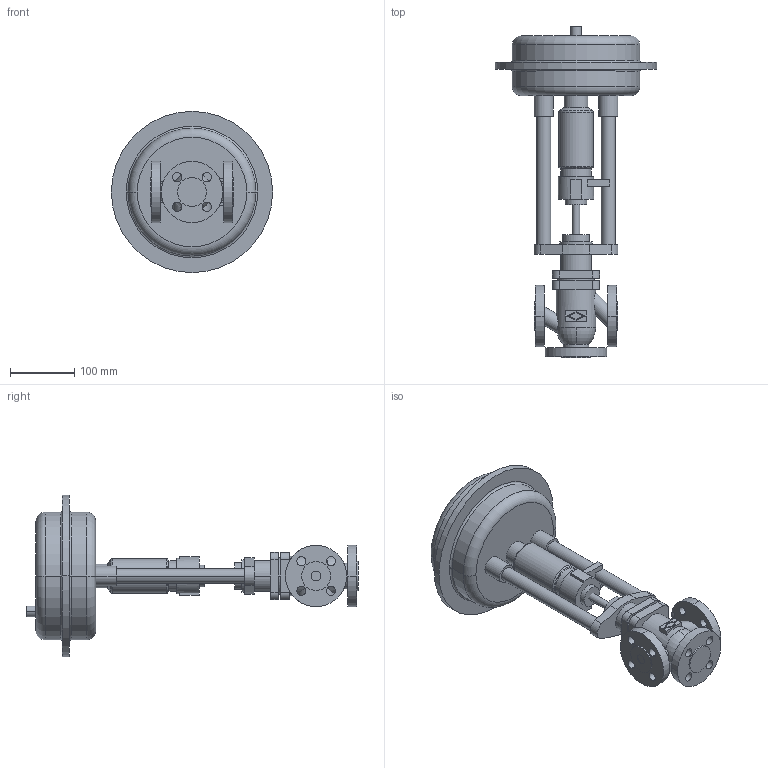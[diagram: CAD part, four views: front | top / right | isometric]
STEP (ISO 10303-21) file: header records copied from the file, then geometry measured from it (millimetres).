
FILE_DESCRIPTION(('OneSpaceDesigner STEP Export'),'2;1');
FILE_NAME('c000000650.stp','2006-09-13T12:57:51',(''),(''),'OneSpace Designer STEP processor for AP214 (Solid Model)','OneSpace Designer 13.20A 18-Aug-2005 (C) CoCreate Software GmbH','');
FILE_SCHEMA(('AUTOMOTIVE_DESIGN { 1 0 10303 214 1 1 1 1 }'));
Length unit declared in the file: millimetre
Products named in the file (2): 1; 2
Bounding box: 250 x 515 x 250 mm (x, y, z)
Volume: 4422182.9 mm3; surface area: 335438.9 mm2
Topology: 2 solids, 2 shells, 204 faces, 495 edges, 324 vertices
Faces by surface type: cylinder 103, plane 79, torus 18, cone 4
Entity records: 5642 total; most frequent: CARTESIAN_POINT 1222, ORIENTED_EDGE 990, DIRECTION 804, EDGE_CURVE 495, VERTEX_POINT 324, AXIS2_PLACEMENT_3D 291, EDGE_LOOP 257, VECTOR 222
